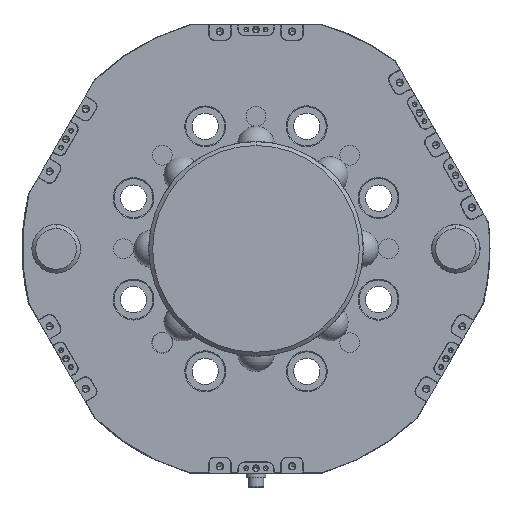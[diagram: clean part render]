
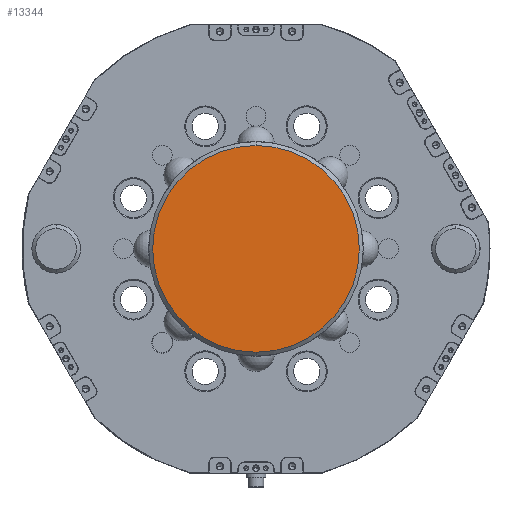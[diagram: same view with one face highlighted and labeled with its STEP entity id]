
A CAD part, front view. The second image highlights one B-rep face of the part: STEP entity #13344.
In plain terms, the highlighted planar face has unit normal (0, -1, 0).
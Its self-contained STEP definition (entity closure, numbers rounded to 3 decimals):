
#1848 = DIRECTION ( 'NONE',  ( 0., 0., -1. ) ) ;
#4151 = CARTESIAN_POINT ( 'NONE',  ( 0., 22.18, 53. ) ) ;
#5849 = AXIS2_PLACEMENT_3D ( 'NONE', #13111, #24827, #20309 ) ;
#9295 = ORIENTED_EDGE ( 'NONE', *, *, #21788, .T. ) ;
#9582 = CARTESIAN_POINT ( 'NONE',  ( 0., 22.18, 0. ) ) ;
#12027 = ORIENTED_EDGE ( 'NONE', *, *, #19478, .T. ) ;
#13066 = DIRECTION ( 'NONE',  ( 0., 0., -1. ) ) ;
#13111 = CARTESIAN_POINT ( 'NONE',  ( 0., 22.18, 0. ) ) ;
#13344 = ADVANCED_FACE ( 'NONE', ( #30101 ), #24061, .T. ) ;
#15448 = EDGE_LOOP ( 'NONE', ( #9295, #12027 ) ) ;
#17616 = DIRECTION ( 'NONE',  ( 0., -1., 0. ) ) ;
#18031 = CARTESIAN_POINT ( 'NONE',  ( 0., 22.18, 0. ) ) ;
#19478 = EDGE_CURVE ( 'NONE', #28035, #28422, #24597, .T. ) ;
#20309 = DIRECTION ( 'NONE',  ( 0., 0., -1. ) ) ;
#21788 = EDGE_CURVE ( 'NONE', #28422, #28035, #24045, .T. ) ;
#22332 = AXIS2_PLACEMENT_3D ( 'NONE', #9582, #31334, #1848 ) ;
#24045 = CIRCLE ( 'NONE', #5849, 53. ) ;
#24061 = PLANE ( 'NONE',  #22332 ) ;
#24597 = CIRCLE ( 'NONE', #26440, 53. ) ;
#24827 = DIRECTION ( 'NONE',  ( 0., -1., 0. ) ) ;
#26440 = AXIS2_PLACEMENT_3D ( 'NONE', #18031, #17616, #13066 ) ;
#28035 = VERTEX_POINT ( 'NONE', #30866 ) ;
#28422 = VERTEX_POINT ( 'NONE', #4151 ) ;
#30101 = FACE_OUTER_BOUND ( 'NONE', #15448, .T. ) ;
#30866 = CARTESIAN_POINT ( 'NONE',  ( 0., 22.18, -53. ) ) ;
#31334 = DIRECTION ( 'NONE',  ( 0., -1., 0. ) ) ;
